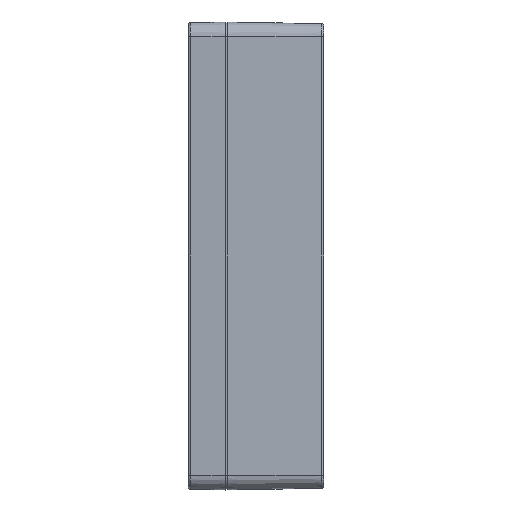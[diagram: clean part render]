
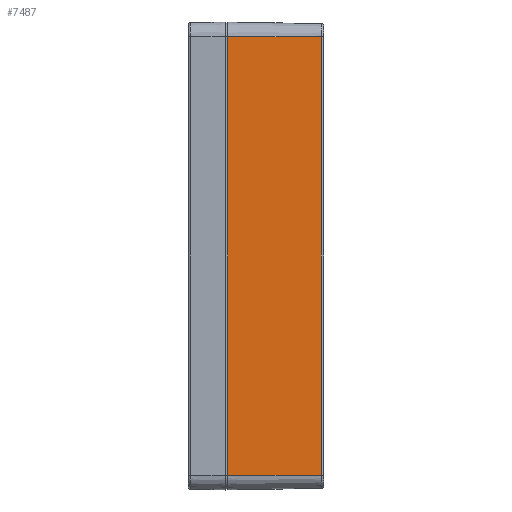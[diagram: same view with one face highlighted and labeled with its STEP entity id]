
A CAD part, left-side view. The second image highlights one B-rep face of the part: STEP entity #7487.
In plain terms, the highlighted planar face has unit normal (-1, -0.018, 0).
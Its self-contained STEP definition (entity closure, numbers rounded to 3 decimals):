
#218 = DIRECTION ( 'NONE',  ( 0., 0., 1. ) ) ;
#228 = VECTOR ( 'NONE', #5515, 1000. ) ;
#1460 = PLANE ( 'NONE',  #7782 ) ;
#1506 = CARTESIAN_POINT ( 'NONE',  ( -95., 0., -89. ) ) ;
#2062 = CARTESIAN_POINT ( 'NONE',  ( -94.319, -39.017, 89. ) ) ;
#2151 = LINE ( 'NONE', #7803, #3205 ) ;
#2250 = EDGE_CURVE ( 'NONE', #8988, #13253, #3388, .T. ) ;
#2671 = VECTOR ( 'NONE', #4799, 1000. ) ;
#2855 = EDGE_CURVE ( 'NONE', #13253, #11438, #2151, .T. ) ;
#3205 = VECTOR ( 'NONE', #5589, 1000. ) ;
#3388 = LINE ( 'NONE', #4306, #228 ) ;
#4306 = CARTESIAN_POINT ( 'NONE',  ( -95., 0., 89. ) ) ;
#4799 = DIRECTION ( 'NONE',  ( -0.017, 1., 0. ) ) ;
#4991 = LINE ( 'NONE', #13937, #2671 ) ;
#5369 = ORIENTED_EDGE ( 'NONE', *, *, #14333, .T. ) ;
#5515 = DIRECTION ( 'NONE',  ( -0.017, 1., 0. ) ) ;
#5589 = DIRECTION ( 'NONE',  ( 0., 0., -1. ) ) ;
#6391 = ORIENTED_EDGE ( 'NONE', *, *, #13376, .F. ) ;
#6769 = EDGE_LOOP ( 'NONE', ( #6391, #5369, #8104, #7365 ) ) ;
#7028 = CARTESIAN_POINT ( 'NONE',  ( -94.319, -39.017, 89. ) ) ;
#7356 = VERTEX_POINT ( 'NONE', #8016 ) ;
#7365 = ORIENTED_EDGE ( 'NONE', *, *, #2855, .T. ) ;
#7487 = ADVANCED_FACE ( 'NONE', ( #10582 ), #1460, .T. ) ;
#7782 = AXIS2_PLACEMENT_3D ( 'NONE', #1506, #14077, #11839 ) ;
#7803 = CARTESIAN_POINT ( 'NONE',  ( -94.983, -1., -89. ) ) ;
#8016 = CARTESIAN_POINT ( 'NONE',  ( -94.319, -39.017, -89. ) ) ;
#8104 = ORIENTED_EDGE ( 'NONE', *, *, #2250, .T. ) ;
#8988 = VERTEX_POINT ( 'NONE', #2062 ) ;
#9090 = LINE ( 'NONE', #7028, #11395 ) ;
#9856 = CARTESIAN_POINT ( 'NONE',  ( -94.983, -1., -89. ) ) ;
#10582 = FACE_OUTER_BOUND ( 'NONE', #6769, .T. ) ;
#11391 = CARTESIAN_POINT ( 'NONE',  ( -94.983, -1., 89. ) ) ;
#11395 = VECTOR ( 'NONE', #218, 1000. ) ;
#11438 = VERTEX_POINT ( 'NONE', #9856 ) ;
#11839 = DIRECTION ( 'NONE',  ( 0.017, -1., 0. ) ) ;
#13253 = VERTEX_POINT ( 'NONE', #11391 ) ;
#13376 = EDGE_CURVE ( 'NONE', #7356, #11438, #4991, .T. ) ;
#13937 = CARTESIAN_POINT ( 'NONE',  ( -95., 0., -89. ) ) ;
#14077 = DIRECTION ( 'NONE',  ( -1., -0.017, 0. ) ) ;
#14333 = EDGE_CURVE ( 'NONE', #7356, #8988, #9090, .T. ) ;
